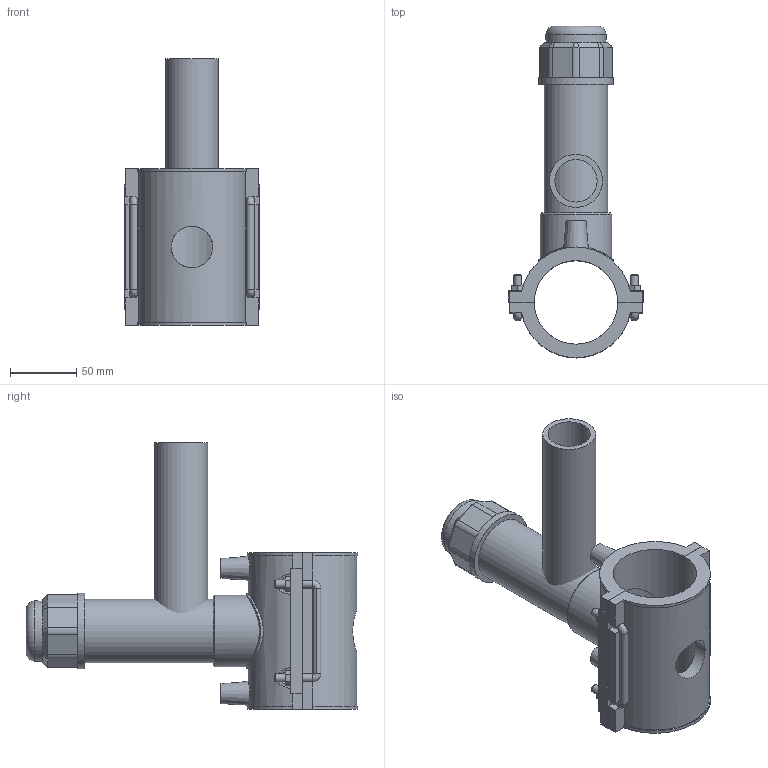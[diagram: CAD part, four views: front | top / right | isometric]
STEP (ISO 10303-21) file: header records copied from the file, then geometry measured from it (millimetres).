
FILE_DESCRIPTION(/* description */ (''),/* implementation_level */ '2;1');
FILE_NAME(/* name */ 'C:\Dropbox\KIMPROJECTS-Inventor 2019\99-16-3568-Processing\ElectroFusion Fittings\4963P4\stp\4963P4063040.stp',/* time_stamp */ '2022-03-17T11:25:39+02:00',/* author */ ('KIM'),/* organization */ (''),/* preprocessor_version */ 'ST-DEVELOPER v17.2',/* originating_system */ 'Autodesk Inventor 2019',/* authorisation */ '');
FILE_SCHEMA (('AUTOMOTIVE_DESIGN { 1 0 10303 214 3 1 1 }'));
Length unit declared in the file: millimetre
Products named in the file (1): 4963P4063040
Bounding box: 102 x 250.27 x 201 mm (x, y, z)
Volume: 557042.3 mm3; surface area: 164514 mm2
Topology: 3 solids, 3 shells, 188 faces, 493 edges, 316 vertices
Faces by surface type: plane 115, cylinder 48, cone 15, bspline 9, torus 1
Full cylindrical faces by diameter (mm): 4 x2, 6 x8, 10 x2, 31.36 x1, 32 x1, 39.69 x1, 40 x1, 45.36 x1, 48.195 x1, 53.865 x1, 56.7 x2
Entity records: 6785 total; most frequent: CARTESIAN_POINT 2083, ORIENTED_EDGE 970, DIRECTION 961, EDGE_CURVE 485, AXIS2_PLACEMENT_3D 329, VERTEX_POINT 316, LINE 303, VECTOR 303
